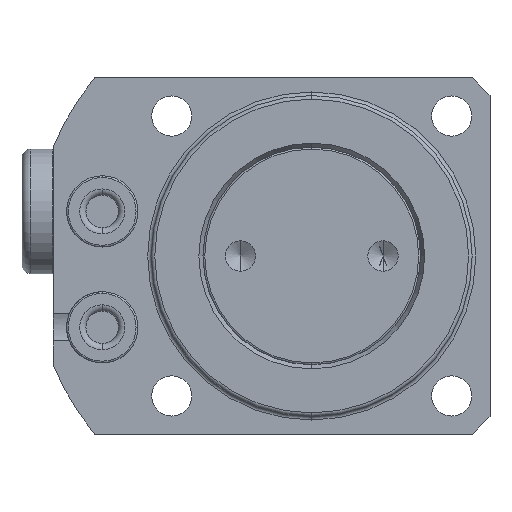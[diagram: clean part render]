
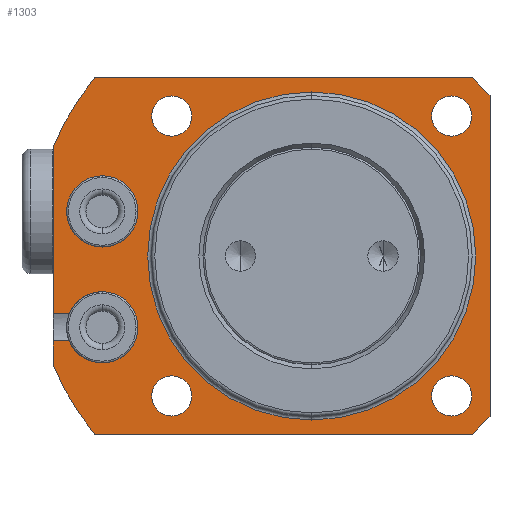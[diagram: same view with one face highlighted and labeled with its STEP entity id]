
A CAD part, front view. The second image highlights one B-rep face of the part: STEP entity #1303.
In plain terms, the highlighted planar face has unit normal (0, -1, 0).
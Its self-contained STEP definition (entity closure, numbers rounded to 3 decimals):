
#218=PLANE('',#4836);
#278=FACE_BOUND('',#1824,.T.);
#279=FACE_BOUND('',#1825,.T.);
#280=FACE_BOUND('',#1826,.T.);
#281=FACE_BOUND('',#1827,.T.);
#282=FACE_BOUND('',#1828,.T.);
#283=FACE_BOUND('',#1829,.T.);
#284=FACE_BOUND('',#1830,.T.);
#886=LINE('',#8115,#1082);
#887=LINE('',#8118,#1083);
#888=LINE('',#8120,#1084);
#889=LINE('',#8124,#1085);
#890=LINE('',#8126,#1086);
#891=LINE('',#8128,#1087);
#892=LINE('',#8130,#1088);
#893=LINE('',#8132,#1089);
#894=LINE('',#8136,#1090);
#1082=VECTOR('',#6094,1.);
#1083=VECTOR('',#6097,1.);
#1084=VECTOR('',#6098,1.);
#1085=VECTOR('',#6101,1.);
#1086=VECTOR('',#6102,1.);
#1087=VECTOR('',#6103,1.);
#1088=VECTOR('',#6104,1.);
#1089=VECTOR('',#6105,1.);
#1090=VECTOR('',#6108,1.);
#1303=ADVANCED_FACE('',(#278,#279,#280,#281,#282,#283,#284),#218,.T.);
#1824=EDGE_LOOP('',(#2805,#2806,#2807,#2808,#2809,#2810,#2811,#2812,#2813,
#2814,#2815,#2816,#2817,#2818));
#1825=EDGE_LOOP('',(#2819,#2820));
#1826=EDGE_LOOP('',(#2821,#2822));
#1827=EDGE_LOOP('',(#2823,#2824));
#1828=EDGE_LOOP('',(#2825,#2826));
#1829=EDGE_LOOP('',(#2827,#2828));
#1830=EDGE_LOOP('',(#2829,#2830));
#2805=ORIENTED_EDGE('',*,*,#3943,.F.);
#2806=ORIENTED_EDGE('',*,*,#3822,.F.);
#2807=ORIENTED_EDGE('',*,*,#3944,.F.);
#2808=ORIENTED_EDGE('',*,*,#3824,.F.);
#2809=ORIENTED_EDGE('',*,*,#3945,.F.);
#2810=ORIENTED_EDGE('',*,*,#3946,.T.);
#2811=ORIENTED_EDGE('',*,*,#3947,.T.);
#2812=ORIENTED_EDGE('',*,*,#3948,.T.);
#2813=ORIENTED_EDGE('',*,*,#3949,.T.);
#2814=ORIENTED_EDGE('',*,*,#3950,.T.);
#2815=ORIENTED_EDGE('',*,*,#3951,.T.);
#2816=ORIENTED_EDGE('',*,*,#3952,.T.);
#2817=ORIENTED_EDGE('',*,*,#3953,.T.);
#2818=ORIENTED_EDGE('',*,*,#3954,.T.);
#2819=ORIENTED_EDGE('',*,*,#3955,.F.);
#2820=ORIENTED_EDGE('',*,*,#3818,.F.);
#2821=ORIENTED_EDGE('',*,*,#3846,.F.);
#2822=ORIENTED_EDGE('',*,*,#3956,.F.);
#2823=ORIENTED_EDGE('',*,*,#3854,.F.);
#2824=ORIENTED_EDGE('',*,*,#3957,.F.);
#2825=ORIENTED_EDGE('',*,*,#3862,.F.);
#2826=ORIENTED_EDGE('',*,*,#3958,.F.);
#2827=ORIENTED_EDGE('',*,*,#3870,.F.);
#2828=ORIENTED_EDGE('',*,*,#3959,.F.);
#2829=ORIENTED_EDGE('',*,*,#3960,.F.);
#2830=ORIENTED_EDGE('',*,*,#3920,.F.);
#3310=VERTEX_POINT('',#7562);
#3311=VERTEX_POINT('',#7564);
#3314=VERTEX_POINT('',#7571);
#3315=VERTEX_POINT('',#7573);
#3316=VERTEX_POINT('',#7578);
#3317=VERTEX_POINT('',#7580);
#3336=VERTEX_POINT('',#7718);
#3337=VERTEX_POINT('',#7719);
#3344=VERTEX_POINT('',#7766);
#3345=VERTEX_POINT('',#7767);
#3352=VERTEX_POINT('',#7814);
#3353=VERTEX_POINT('',#7815);
#3360=VERTEX_POINT('',#7862);
#3361=VERTEX_POINT('',#7863);
#3400=VERTEX_POINT('',#7994);
#3401=VERTEX_POINT('',#7996);
#3416=VERTEX_POINT('',#8116);
#3417=VERTEX_POINT('',#8119);
#3418=VERTEX_POINT('',#8121);
#3419=VERTEX_POINT('',#8123);
#3420=VERTEX_POINT('',#8125);
#3421=VERTEX_POINT('',#8127);
#3422=VERTEX_POINT('',#8129);
#3423=VERTEX_POINT('',#8131);
#3424=VERTEX_POINT('',#8133);
#3425=VERTEX_POINT('',#8135);
#3818=EDGE_CURVE('',#3310,#3311,#4235,.T.);
#3822=EDGE_CURVE('',#3314,#3315,#4237,.T.);
#3824=EDGE_CURVE('',#3316,#3317,#4238,.T.);
#3846=EDGE_CURVE('',#3336,#3337,#4244,.T.);
#3854=EDGE_CURVE('',#3344,#3345,#4247,.T.);
#3862=EDGE_CURVE('',#3352,#3353,#4250,.T.);
#3870=EDGE_CURVE('',#3360,#3361,#4253,.T.);
#3920=EDGE_CURVE('',#3400,#3401,#4284,.T.);
#3943=EDGE_CURVE('',#3315,#3416,#886,.T.);
#3944=EDGE_CURVE('',#3317,#3314,#4294,.T.);
#3945=EDGE_CURVE('',#3417,#3316,#887,.T.);
#3946=EDGE_CURVE('',#3417,#3418,#888,.T.);
#3947=EDGE_CURVE('',#3418,#3419,#4295,.T.);
#3948=EDGE_CURVE('',#3419,#3420,#889,.T.);
#3949=EDGE_CURVE('',#3420,#3421,#890,.T.);
#3950=EDGE_CURVE('',#3421,#3422,#891,.T.);
#3951=EDGE_CURVE('',#3422,#3423,#892,.T.);
#3952=EDGE_CURVE('',#3423,#3424,#893,.T.);
#3953=EDGE_CURVE('',#3424,#3425,#4296,.T.);
#3954=EDGE_CURVE('',#3425,#3416,#894,.T.);
#3955=EDGE_CURVE('',#3311,#3310,#4297,.T.);
#3956=EDGE_CURVE('',#3337,#3336,#4298,.T.);
#3957=EDGE_CURVE('',#3345,#3344,#4299,.T.);
#3958=EDGE_CURVE('',#3353,#3352,#4300,.T.);
#3959=EDGE_CURVE('',#3361,#3360,#4301,.T.);
#3960=EDGE_CURVE('',#3401,#3400,#4302,.T.);
#4235=CIRCLE('',#4736,4.);
#4237=CIRCLE('',#4739,4.);
#4238=CIRCLE('',#4740,4.);
#4244=CIRCLE('',#4753,2.25);
#4247=CIRCLE('',#4758,2.25);
#4250=CIRCLE('',#4763,2.25);
#4253=CIRCLE('',#4768,2.25);
#4284=CIRCLE('',#4812,18.4);
#4294=CIRCLE('',#4827,4.);
#4295=CIRCLE('',#4828,31.5);
#4296=CIRCLE('',#4829,31.5);
#4297=CIRCLE('',#4830,4.);
#4298=CIRCLE('',#4831,2.25);
#4299=CIRCLE('',#4832,2.25);
#4300=CIRCLE('',#4833,2.25);
#4301=CIRCLE('',#4834,2.25);
#4302=CIRCLE('',#4835,18.4);
#4736=AXIS2_PLACEMENT_3D('',#7563,#5861,#5862);
#4739=AXIS2_PLACEMENT_3D('',#7572,#5869,#5870);
#4740=AXIS2_PLACEMENT_3D('',#7579,#5871,#5872);
#4753=AXIS2_PLACEMENT_3D('',#7717,#5910,#5911);
#4758=AXIS2_PLACEMENT_3D('',#7765,#5924,#5925);
#4763=AXIS2_PLACEMENT_3D('',#7813,#5938,#5939);
#4768=AXIS2_PLACEMENT_3D('',#7861,#5952,#5953);
#4812=AXIS2_PLACEMENT_3D('',#7995,#6058,#6059);
#4827=AXIS2_PLACEMENT_3D('',#8117,#6095,#6096);
#4828=AXIS2_PLACEMENT_3D('',#8122,#6099,#6100);
#4829=AXIS2_PLACEMENT_3D('',#8134,#6106,#6107);
#4830=AXIS2_PLACEMENT_3D('',#8137,#6109,#6110);
#4831=AXIS2_PLACEMENT_3D('',#8138,#6111,#6112);
#4832=AXIS2_PLACEMENT_3D('',#8139,#6113,#6114);
#4833=AXIS2_PLACEMENT_3D('',#8140,#6115,#6116);
#4834=AXIS2_PLACEMENT_3D('',#8141,#6117,#6118);
#4835=AXIS2_PLACEMENT_3D('',#8142,#6119,#6120);
#4836=AXIS2_PLACEMENT_3D('',#8143,#6121,#6122);
#5861=DIRECTION('',(0.,-1.,0.));
#5862=DIRECTION('',(0.,0.,-1.));
#5869=DIRECTION('',(0.,-1.,0.));
#5870=DIRECTION('',(0.,0.,-1.));
#5871=DIRECTION('',(0.,-1.,0.));
#5872=DIRECTION('',(0.,0.,-1.));
#5910=DIRECTION('',(0.,-1.,0.));
#5911=DIRECTION('',(0.,0.,-1.));
#5924=DIRECTION('',(0.,-1.,0.));
#5925=DIRECTION('',(0.,0.,-1.));
#5938=DIRECTION('',(0.,-1.,0.));
#5939=DIRECTION('',(0.,0.,-1.));
#5952=DIRECTION('',(0.,-1.,0.));
#5953=DIRECTION('',(0.,0.,-1.));
#6058=DIRECTION('',(0.,-1.,0.));
#6059=DIRECTION('',(0.,0.,-1.));
#6094=DIRECTION('',(-1.,0.,0.));
#6095=DIRECTION('',(0.,-1.,0.));
#6096=DIRECTION('',(0.,0.,-1.));
#6097=DIRECTION('',(1.,0.,0.));
#6098=DIRECTION('',(0.,0.,-1.));
#6099=DIRECTION('',(0.,-1.,0.));
#6100=DIRECTION('',(0.,0.,-1.));
#6101=DIRECTION('',(1.,0.,0.));
#6102=DIRECTION('',(0.707,0.,0.707));
#6103=DIRECTION('',(0.,0.,1.));
#6104=DIRECTION('',(-0.707,0.,0.707));
#6105=DIRECTION('',(-1.,0.,0.));
#6106=DIRECTION('',(0.,-1.,0.));
#6107=DIRECTION('',(0.,0.,-1.));
#6108=DIRECTION('',(0.,0.,-1.));
#6109=DIRECTION('',(0.,-1.,0.));
#6110=DIRECTION('',(0.,0.,-1.));
#6111=DIRECTION('',(0.,-1.,0.));
#6112=DIRECTION('',(0.,0.,-1.));
#6113=DIRECTION('',(0.,-1.,0.));
#6114=DIRECTION('',(0.,0.,-1.));
#6115=DIRECTION('',(0.,-1.,0.));
#6116=DIRECTION('',(0.,0.,-1.));
#6117=DIRECTION('',(0.,-1.,0.));
#6118=DIRECTION('',(0.,0.,-1.));
#6119=DIRECTION('',(0.,-1.,0.));
#6120=DIRECTION('',(0.,0.,-1.));
#6121=DIRECTION('',(0.,-1.,0.));
#6122=DIRECTION('',(0.,0.,1.));
#7562=CARTESIAN_POINT('',(-23.5,27.628,9.));
#7563=CARTESIAN_POINT('',(-23.5,27.628,5.));
#7564=CARTESIAN_POINT('',(-23.5,27.628,1.));
#7571=CARTESIAN_POINT('',(-23.5,27.628,-4.));
#7572=CARTESIAN_POINT('',(-23.5,27.628,-8.));
#7573=CARTESIAN_POINT('',(-27.2,27.628,-6.48));
#7578=CARTESIAN_POINT('',(-27.2,27.628,-9.52));
#7579=CARTESIAN_POINT('',(-23.5,27.628,-8.));
#7580=CARTESIAN_POINT('',(-23.5,27.628,-12.));
#7717=CARTESIAN_POINT('',(-15.7,27.628,-15.7));
#7718=CARTESIAN_POINT('',(-15.7,27.628,-13.45));
#7719=CARTESIAN_POINT('',(-15.7,27.628,-17.95));
#7765=CARTESIAN_POINT('',(-15.7,27.628,15.7));
#7766=CARTESIAN_POINT('',(-15.7,27.628,17.95));
#7767=CARTESIAN_POINT('',(-15.7,27.628,13.45));
#7813=CARTESIAN_POINT('',(15.7,27.628,15.7));
#7814=CARTESIAN_POINT('',(15.7,27.628,17.95));
#7815=CARTESIAN_POINT('',(15.7,27.628,13.45));
#7861=CARTESIAN_POINT('',(15.7,27.628,-15.7));
#7862=CARTESIAN_POINT('',(15.7,27.628,-13.45));
#7863=CARTESIAN_POINT('',(15.7,27.628,-17.95));
#7994=CARTESIAN_POINT('',(0.,27.628,18.4));
#7995=CARTESIAN_POINT('',(0.,27.628,0.));
#7996=CARTESIAN_POINT('',(0.,27.628,-18.4));
#8115=CARTESIAN_POINT('',(-24.,27.628,-6.48));
#8116=CARTESIAN_POINT('',(-29.,27.628,-6.48));
#8117=CARTESIAN_POINT('',(-23.5,27.628,-8.));
#8118=CARTESIAN_POINT('',(-24.,27.628,-9.52));
#8119=CARTESIAN_POINT('',(-29.,27.628,-9.52));
#8120=CARTESIAN_POINT('',(-29.,27.628,0.));
#8121=CARTESIAN_POINT('',(-29.,27.628,-12.298));
#8122=CARTESIAN_POINT('',(0.,27.628,0.));
#8123=CARTESIAN_POINT('',(-24.336,27.628,-20.));
#8124=CARTESIAN_POINT('',(31.5,27.628,-20.));
#8125=CARTESIAN_POINT('',(18.,27.628,-20.));
#8126=CARTESIAN_POINT('',(34.75,27.628,-3.25));
#8127=CARTESIAN_POINT('',(20.,27.628,-18.));
#8128=CARTESIAN_POINT('',(20.,27.628,0.));
#8129=CARTESIAN_POINT('',(20.,27.628,18.));
#8130=CARTESIAN_POINT('',(34.75,27.628,3.25));
#8131=CARTESIAN_POINT('',(18.,27.628,20.));
#8132=CARTESIAN_POINT('',(31.5,27.628,20.));
#8133=CARTESIAN_POINT('',(-24.336,27.628,20.));
#8134=CARTESIAN_POINT('',(0.,27.628,0.));
#8135=CARTESIAN_POINT('',(-29.,27.628,12.298));
#8136=CARTESIAN_POINT('',(-29.,27.628,0.));
#8137=CARTESIAN_POINT('',(-23.5,27.628,5.));
#8138=CARTESIAN_POINT('',(-15.7,27.628,-15.7));
#8139=CARTESIAN_POINT('',(-15.7,27.628,15.7));
#8140=CARTESIAN_POINT('',(15.7,27.628,15.7));
#8141=CARTESIAN_POINT('',(15.7,27.628,-15.7));
#8142=CARTESIAN_POINT('',(0.,27.628,0.));
#8143=CARTESIAN_POINT('',(31.5,27.628,0.));
